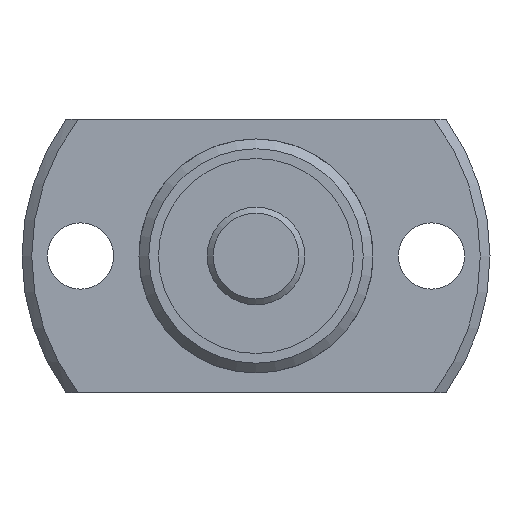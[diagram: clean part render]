
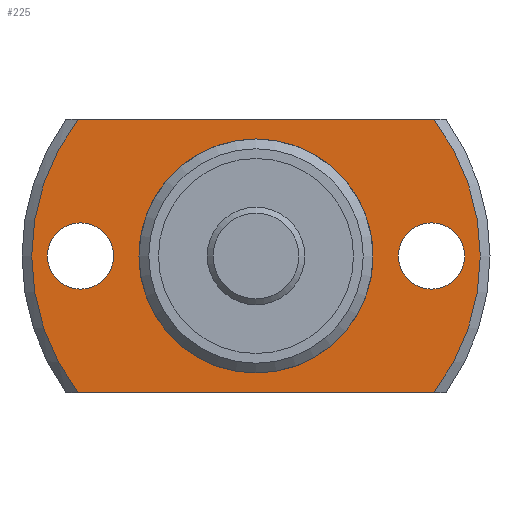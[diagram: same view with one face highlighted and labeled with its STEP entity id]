
A CAD part, left-side view. The second image highlights one B-rep face of the part: STEP entity #225.
In plain terms, the highlighted planar face has unit normal (-1, 0, 0).
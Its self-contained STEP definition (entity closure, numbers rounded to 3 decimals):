
#225 = ADVANCED_FACE( '', ( #380, #381, #382, #383 ), #384, .F. );
#380 = FACE_OUTER_BOUND( '', #559, .T. );
#381 = FACE_BOUND( '', #560, .T. );
#382 = FACE_BOUND( '', #561, .T. );
#383 = FACE_BOUND( '', #562, .T. );
#384 = PLANE( '', #563 );
#559 = EDGE_LOOP( '', ( #994, #995, #996, #997 ) );
#560 = EDGE_LOOP( '', ( #998 ) );
#561 = EDGE_LOOP( '', ( #999 ) );
#562 = EDGE_LOOP( '', ( #1000 ) );
#563 = AXIS2_PLACEMENT_3D( '', #1001, #1002, #1003 );
#994 = ORIENTED_EDGE( '', *, *, #1143, .F. );
#995 = ORIENTED_EDGE( '', *, *, #1242, .T. );
#996 = ORIENTED_EDGE( '', *, *, #1236, .F. );
#997 = ORIENTED_EDGE( '', *, *, #1137, .T. );
#998 = ORIENTED_EDGE( '', *, *, #1243, .T. );
#999 = ORIENTED_EDGE( '', *, *, #1244, .T. );
#1000 = ORIENTED_EDGE( '', *, *, #1238, .T. );
#1001 = CARTESIAN_POINT( '', ( 18., 5.8, 0. ) );
#1002 = DIRECTION( '', ( 1., 0., 0. ) );
#1003 = DIRECTION( '', ( 0., 0., -1. ) );
#1137 = EDGE_CURVE( '', #1307, #1305, #1308, .T. );
#1143 = EDGE_CURVE( '', #1318, #1305, #1319, .T. );
#1236 = EDGE_CURVE( '', #1307, #1480, #1481, .T. );
#1238 = EDGE_CURVE( '', #1483, #1483, #1484, .T. );
#1242 = EDGE_CURVE( '', #1318, #1480, #1488, .T. );
#1243 = EDGE_CURVE( '', #1489, #1489, #1490, .T. );
#1244 = EDGE_CURVE( '', #1491, #1491, #1492, .T. );
#1305 = VERTEX_POINT( '', #1568 );
#1307 = VERTEX_POINT( '', #1573 );
#1308 = LINE( '', #1574, #1575 );
#1318 = VERTEX_POINT( '', #1596 );
#1319 = CIRCLE( '', #1597, 11.5 );
#1480 = VERTEX_POINT( '', #1865 );
#1481 = CIRCLE( '', #1866, 11.5 );
#1483 = VERTEX_POINT( '', #1871 );
#1484 = CIRCLE( '', #1872, 5.8 );
#1488 = LINE( '', #1876, #1877 );
#1489 = VERTEX_POINT( '', #1878 );
#1490 = CIRCLE( '', #1879, 1.7 );
#1491 = VERTEX_POINT( '', #1880 );
#1492 = CIRCLE( '', #1881, 1.7 );
#1568 = CARTESIAN_POINT( '', ( 18., 9.124, 7. ) );
#1573 = CARTESIAN_POINT( '', ( 18., -9.124, 7. ) );
#1574 = CARTESIAN_POINT( '', ( 18., 5.8, 7. ) );
#1575 = VECTOR( '', #1962, 1000. );
#1596 = CARTESIAN_POINT( '', ( 18., 9.124, -7. ) );
#1597 = AXIS2_PLACEMENT_3D( '', #1965, #1966, #1967 );
#1865 = CARTESIAN_POINT( '', ( 18., -9.124, -7. ) );
#1866 = AXIS2_PLACEMENT_3D( '', #2125, #2126, #2127 );
#1871 = CARTESIAN_POINT( '', ( 18., 0., -5.8 ) );
#1872 = AXIS2_PLACEMENT_3D( '', #2128, #2129, #2130 );
#1876 = CARTESIAN_POINT( '', ( 18., 5.8, -7. ) );
#1877 = VECTOR( '', #2140, 1000. );
#1878 = CARTESIAN_POINT( '', ( 18., 9., -1.7 ) );
#1879 = AXIS2_PLACEMENT_3D( '', #2141, #2142, #2143 );
#1880 = CARTESIAN_POINT( '', ( 18., -9., -1.7 ) );
#1881 = AXIS2_PLACEMENT_3D( '', #2144, #2145, #2146 );
#1962 = DIRECTION( '', ( 0., 1., 0. ) );
#1965 = CARTESIAN_POINT( '', ( 18., 0., 0. ) );
#1966 = DIRECTION( '', ( 1., 0., 0. ) );
#1967 = DIRECTION( '', ( 0., 0., -1. ) );
#2125 = CARTESIAN_POINT( '', ( 18., 0., 0. ) );
#2126 = DIRECTION( '', ( 1., 0., 0. ) );
#2127 = DIRECTION( '', ( 0., 0., -1. ) );
#2128 = CARTESIAN_POINT( '', ( 18., 0., 0. ) );
#2129 = DIRECTION( '', ( 1., 0., 0. ) );
#2130 = DIRECTION( '', ( 0., 0., -1. ) );
#2140 = DIRECTION( '', ( 0., -1., 0. ) );
#2141 = CARTESIAN_POINT( '', ( 18., 9., 0. ) );
#2142 = DIRECTION( '', ( 1., 0., 0. ) );
#2143 = DIRECTION( '', ( 0., 0., -1. ) );
#2144 = CARTESIAN_POINT( '', ( 18., -9., 0. ) );
#2145 = DIRECTION( '', ( 1., 0., 0. ) );
#2146 = DIRECTION( '', ( 0., 0., -1. ) );
